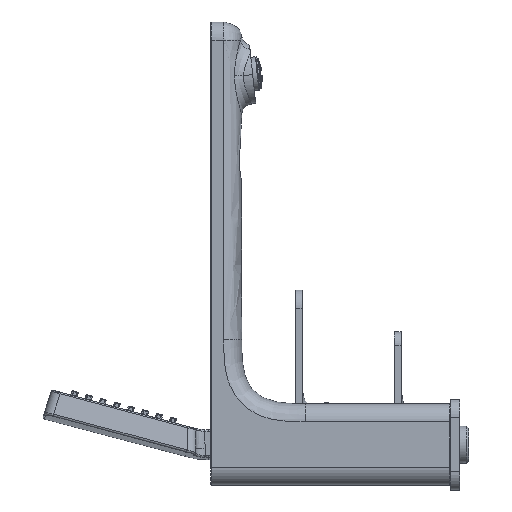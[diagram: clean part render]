
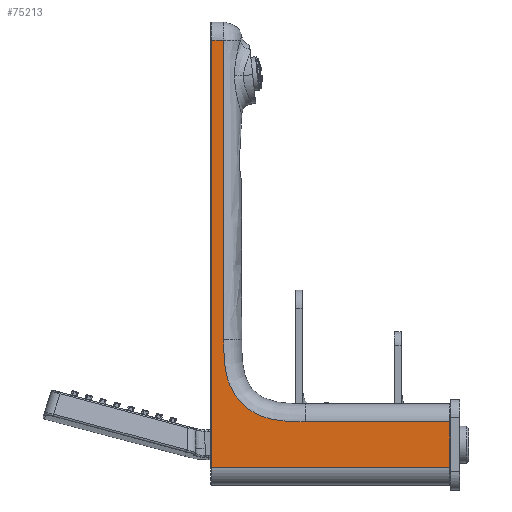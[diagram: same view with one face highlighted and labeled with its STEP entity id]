
A CAD part, left-side view. The second image highlights one B-rep face of the part: STEP entity #75213.
In plain terms, the highlighted planar face has unit normal (-1, 0, 0).
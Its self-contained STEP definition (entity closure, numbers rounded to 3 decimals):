
#451=B_SPLINE_CURVE_WITH_KNOTS('',3,(#129683,#129684,#129685,#129686,#129687,
#129688,#129689,#129690,#129691,#129692,#129693,#129694,#129695,#129696,
#129697,#129698,#129699,#129700),.UNSPECIFIED.,.F.,.F.,(4,1,1,1,1,1,1,1,
1,1,1,1,1,1,1,4),(0.,4.467,8.934,13.402,
17.869,22.336,26.803,31.27,35.738,
40.205,44.672,49.139,53.607,58.074,
62.541,67.008),.UNSPECIFIED.);
#11466=FACE_OUTER_BOUND('',#15467,.T.);
#15467=EDGE_LOOP('',(#56243,#56244,#56245,#56246,#56247,#56248,#56249));
#20803=LINE('',#129628,#26169);
#20804=LINE('',#129662,#26170);
#20806=LINE('',#129670,#26172);
#20807=LINE('',#129678,#26173);
#20808=LINE('',#129681,#26174);
#20809=LINE('',#129701,#26175);
#26169=VECTOR('',#91586,10.);
#26170=VECTOR('',#91595,10.);
#26172=VECTOR('',#91601,10.);
#26173=VECTOR('',#91616,10.);
#26174=VECTOR('',#91619,10.);
#26175=VECTOR('',#91620,10.);
#31952=VERTEX_POINT('',#129625);
#31953=VERTEX_POINT('',#129627);
#31954=VERTEX_POINT('',#129660);
#31957=VERTEX_POINT('',#129667);
#31958=VERTEX_POINT('',#129669);
#31959=VERTEX_POINT('',#129680);
#31960=VERTEX_POINT('',#129682);
#41032=EDGE_CURVE('',#31953,#31952,#20803,.T.);
#41036=EDGE_CURVE('',#31952,#31954,#20804,.T.);
#41039=EDGE_CURVE('',#31958,#31957,#20806,.T.);
#41044=EDGE_CURVE('',#31954,#31958,#20807,.T.);
#41045=EDGE_CURVE('',#31957,#31959,#20808,.T.);
#41046=EDGE_CURVE('',#31960,#31959,#451,.T.);
#41047=EDGE_CURVE('',#31960,#31953,#20809,.T.);
#56243=ORIENTED_EDGE('',*,*,#41036,.T.);
#56244=ORIENTED_EDGE('',*,*,#41044,.T.);
#56245=ORIENTED_EDGE('',*,*,#41039,.T.);
#56246=ORIENTED_EDGE('',*,*,#41045,.T.);
#56247=ORIENTED_EDGE('',*,*,#41046,.F.);
#56248=ORIENTED_EDGE('',*,*,#41047,.T.);
#56249=ORIENTED_EDGE('',*,*,#41032,.T.);
#72591=PLANE('',#80331);
#75213=ADVANCED_FACE('',(#11466),#72591,.T.);
#80331=AXIS2_PLACEMENT_3D('',#129679,#91617,#91618);
#91586=DIRECTION('',(0.,1.,0.));
#91595=DIRECTION('',(0.,0.,-1.));
#91601=DIRECTION('',(0.,0.,1.));
#91616=DIRECTION('',(0.,-1.,0.));
#91617=DIRECTION('center_axis',(-1.,0.,0.));
#91618=DIRECTION('ref_axis',(0.,-1.,0.));
#91619=DIRECTION('',(0.,1.,0.));
#91620=DIRECTION('',(0.,0.,1.));
#129625=CARTESIAN_POINT('',(-92.712,89.699,279.868));
#129627=CARTESIAN_POINT('',(-92.712,83.199,279.868));
#129628=CARTESIAN_POINT('',(-92.712,83.199,279.868));
#129660=CARTESIAN_POINT('',(-92.712,89.699,44.868));
#129662=CARTESIAN_POINT('',(-92.712,89.699,279.868));
#129667=CARTESIAN_POINT('',(-92.712,-41.301,69.868));
#129669=CARTESIAN_POINT('',(-92.712,-41.301,44.868));
#129670=CARTESIAN_POINT('',(-92.712,-41.301,44.868));
#129678=CARTESIAN_POINT('',(-92.712,89.699,44.868));
#129679=CARTESIAN_POINT('Origin',(-92.712,-43.921,162.368));
#129680=CARTESIAN_POINT('',(-92.712,38.199,69.868));
#129681=CARTESIAN_POINT('',(-92.712,-41.301,69.868));
#129682=CARTESIAN_POINT('',(-92.712,83.199,114.963));
#129683=CARTESIAN_POINT('Ctrl Pts',(-92.712,83.199,
114.963));
#129684=CARTESIAN_POINT('Ctrl Pts',(-92.712,83.199,
113.297));
#129685=CARTESIAN_POINT('Ctrl Pts',(-92.712,83.198,109.963));
#129686=CARTESIAN_POINT('Ctrl Pts',(-92.712,83.016,
104.975));
#129687=CARTESIAN_POINT('Ctrl Pts',(-92.712,82.506,
100.005));
#129688=CARTESIAN_POINT('Ctrl Pts',(-92.712,81.534,
95.099));
#129689=CARTESIAN_POINT('Ctrl Pts',(-92.712,79.995,
90.354));
#129690=CARTESIAN_POINT('Ctrl Pts',(-92.712,77.797,85.852));
#129691=CARTESIAN_POINT('Ctrl Pts',(-92.712,74.914,
81.759));
#129692=CARTESIAN_POINT('Ctrl Pts',(-92.712,71.381,
78.21));
#129693=CARTESIAN_POINT('Ctrl Pts',(-92.712,67.3,
75.311));
#129694=CARTESIAN_POINT('Ctrl Pts',(-92.712,62.811,
73.098));
#129695=CARTESIAN_POINT('Ctrl Pts',(-92.712,58.052,71.543));
#129696=CARTESIAN_POINT('Ctrl Pts',(-92.712,53.157,
70.567));
#129697=CARTESIAN_POINT('Ctrl Pts',(-92.712,48.187,
70.052));
#129698=CARTESIAN_POINT('Ctrl Pts',(-92.712,43.2,
69.869));
#129699=CARTESIAN_POINT('Ctrl Pts',(-92.712,39.865,
69.868));
#129700=CARTESIAN_POINT('Ctrl Pts',(-92.712,38.199,
69.868));
#129701=CARTESIAN_POINT('',(-92.712,83.199,114.963));
